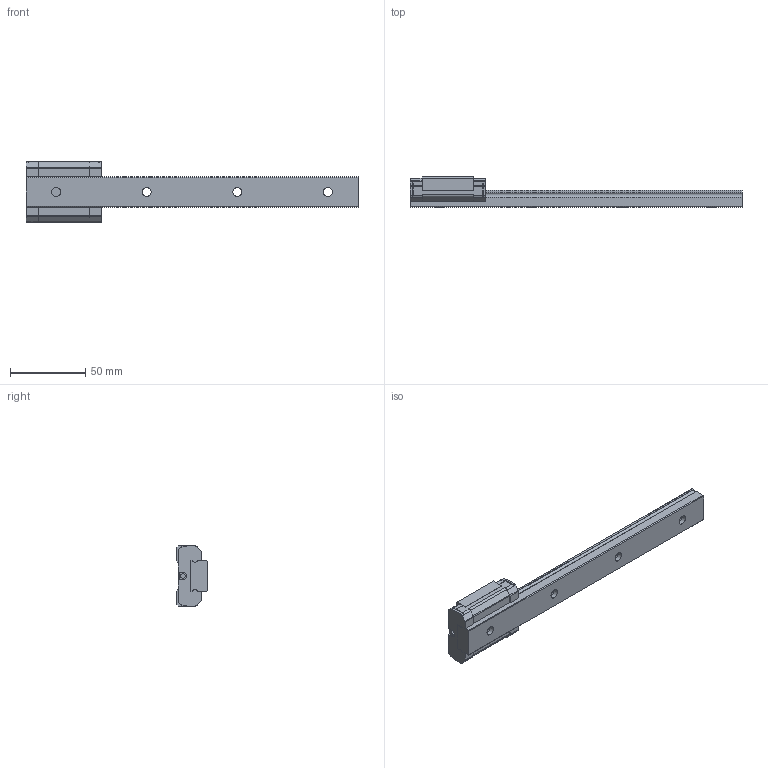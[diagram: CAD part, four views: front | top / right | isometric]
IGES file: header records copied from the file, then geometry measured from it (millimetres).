
Start section: Data from Parasolid IGES Translator 26.0.171, Copyright(c) 2006 Siemens PLM Software. All Rights Reserved.
Global section: file name: SRS20MSS-220LM_G20_0_Without_grease_nipple_0_0_0_0_1.igs; native system: By Siemens PLM Incorporated; preprocessor: XPlus GENERIC/IGES 26.0.171; author: Noname; organization: Noname; date: 20240517.091330; units: millimetre
Bounding box: 220 x 20 x 40 mm (x, y, z)
Surface area: 22598.5 mm2 (no closed solid volume)
Topology: 0 solids, 0 shells, 204 faces, 1136 edges, 1112 vertices
Faces by surface type: extrusion 120, revolution 84
